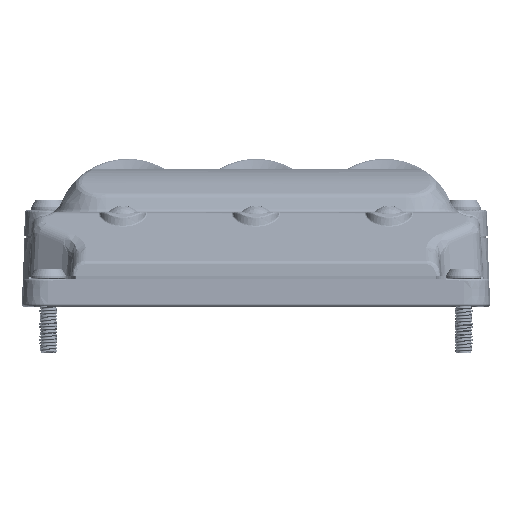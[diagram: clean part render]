
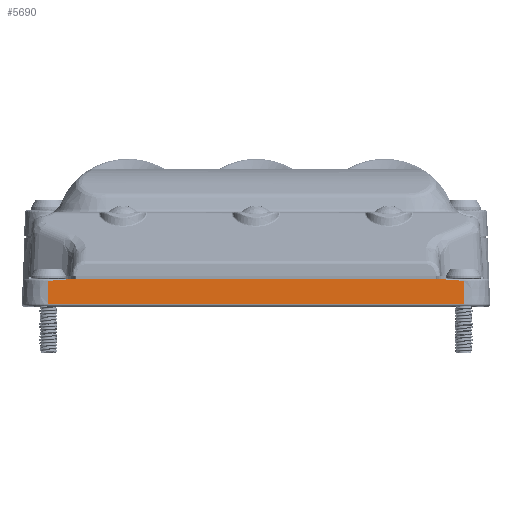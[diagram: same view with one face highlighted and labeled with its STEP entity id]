
A CAD part, top view. The second image highlights one B-rep face of the part: STEP entity #5690.
In plain terms, the highlighted planar face has unit normal (0, 0.035, 0.999).
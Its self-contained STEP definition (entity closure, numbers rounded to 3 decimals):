
#785 = LINE ( 'NONE', #54960, #95820 ) ;
#3224 = CARTESIAN_POINT ( 'NONE',  ( 39.25, 6., 40.69 ) ) ;
#3863 = ORIENTED_EDGE ( 'NONE', *, *, #78620, .T. ) ;
#5690 = ADVANCED_FACE ( 'NONE', ( #148428 ), #79233, .T. ) ;
#7178 = CARTESIAN_POINT ( 'NONE',  ( -39.25, 6., 40.69 ) ) ;
#8614 = VERTEX_POINT ( 'NONE', #55653 ) ;
#13501 = DIRECTION ( 'NONE',  ( 0., -0.999, 0.035 ) ) ;
#14368 = DIRECTION ( 'NONE',  ( 0., 0.035, 0.999 ) ) ;
#17544 = VECTOR ( 'NONE', #169220, 1000. ) ;
#18942 = CARTESIAN_POINT ( 'NONE',  ( -45.25, 0., 40.9 ) ) ;
#20970 = LINE ( 'NONE', #103566, #17544 ) ;
#24866 = VERTEX_POINT ( 'NONE', #120912 ) ;
#31645 = VERTEX_POINT ( 'NONE', #63549 ) ;
#31998 = VERTEX_POINT ( 'NONE', #7178 ) ;
#45937 = CARTESIAN_POINT ( 'NONE',  ( -41.25, 5.759, 40.699 ) ) ;
#48242 = DIRECTION ( 'NONE',  ( 0., -0.999, 0.035 ) ) ;
#53276 = EDGE_CURVE ( 'NONE', #8614, #160704, #157369, .T. ) ;
#54827 = ORIENTED_EDGE ( 'NONE', *, *, #174904, .T. ) ;
#54960 = CARTESIAN_POINT ( 'NONE',  ( 45.25, 0., 40.9 ) ) ;
#55653 = CARTESIAN_POINT ( 'NONE',  ( -45.25, 5.517, 40.707 ) ) ;
#56398 = CARTESIAN_POINT ( 'NONE',  ( -45.25, 0.517, 40.882 ) ) ;
#58839 = CARTESIAN_POINT ( 'NONE',  ( 45.25, 5.517, 40.707 ) ) ;
#62794 = CARTESIAN_POINT ( 'NONE',  ( -39.25, 6., 40.69 ) ) ;
#63549 = CARTESIAN_POINT ( 'NONE',  ( 45.25, 0.517, 40.882 ) ) ;
#72271 = EDGE_CURVE ( 'NONE', #83424, #31645, #785, .T. ) ;
#73322 = CARTESIAN_POINT ( 'NONE',  ( 45.25, 5.517, 40.707 ) ) ;
#75208 = CARTESIAN_POINT ( 'NONE',  ( -45.25, 5.517, 40.707 ) ) ;
#78620 = EDGE_CURVE ( 'NONE', #24866, #31998, #20970, .T. ) ;
#79233 = PLANE ( 'NONE',  #173810 ) ;
#83424 = VERTEX_POINT ( 'NONE', #58839 ) ;
#89706 = ORIENTED_EDGE ( 'NONE', *, *, #129600, .T. ) ;
#95820 = VECTOR ( 'NONE', #109123, 1000. ) ;
#99574 = EDGE_LOOP ( 'NONE', ( #111550, #119550, #3863, #54827, #112735, #89706 ) ) ;
#103566 = CARTESIAN_POINT ( 'NONE',  ( -46.25, 6., 40.69 ) ) ;
#105044 = DIRECTION ( 'NONE',  ( 1., 0., 0. ) ) ;
#109123 = DIRECTION ( 'NONE',  ( 0., -0.999, 0.035 ) ) ;
#111550 = ORIENTED_EDGE ( 'NONE', *, *, #72271, .F. ) ;
#112735 = ORIENTED_EDGE ( 'NONE', *, *, #53276, .T. ) ;
#119550 = ORIENTED_EDGE ( 'NONE', *, *, #126335, .T. ) ;
#120185 = B_SPLINE_CURVE_WITH_KNOTS ( 'NONE', 3,
 ( #62794, #45937, #143555, #75208 ),
 .UNSPECIFIED., .F., .F.,
 ( 4, 4 ),
 ( 0.001, 0.007 ),
 .UNSPECIFIED. ) ;
#120912 = CARTESIAN_POINT ( 'NONE',  ( 39.25, 6., 40.69 ) ) ;
#123389 = LINE ( 'NONE', #164185, #147605 ) ;
#126335 = EDGE_CURVE ( 'NONE', #83424, #24866, #154957, .T. ) ;
#127507 = CARTESIAN_POINT ( 'NONE',  ( 41.25, 5.759, 40.699 ) ) ;
#129600 = EDGE_CURVE ( 'NONE', #160704, #31645, #123389, .T. ) ;
#143555 = CARTESIAN_POINT ( 'NONE',  ( -43.25, 5.517, 40.707 ) ) ;
#147605 = VECTOR ( 'NONE', #105044, 1000. ) ;
#148428 = FACE_OUTER_BOUND ( 'NONE', #99574, .T. ) ;
#154957 = B_SPLINE_CURVE_WITH_KNOTS ( 'NONE', 3,
 ( #73322, #164797, #127507, #3224 ),
 .UNSPECIFIED., .F., .F.,
 ( 4, 4 ),
 ( 0.085, 0.091 ),
 .UNSPECIFIED. ) ;
#157369 = LINE ( 'NONE', #18942, #161358 ) ;
#160704 = VERTEX_POINT ( 'NONE', #56398 ) ;
#161358 = VECTOR ( 'NONE', #48242, 1000. ) ;
#161756 = CARTESIAN_POINT ( 'NONE',  ( 50., 0., 40.9 ) ) ;
#164185 = CARTESIAN_POINT ( 'NONE',  ( 50., 0.517, 40.882 ) ) ;
#164797 = CARTESIAN_POINT ( 'NONE',  ( 43.25, 5.517, 40.707 ) ) ;
#169220 = DIRECTION ( 'NONE',  ( -1., 0., 0. ) ) ;
#173810 = AXIS2_PLACEMENT_3D ( 'NONE', #161756, #14368, #13501 ) ;
#174904 = EDGE_CURVE ( 'NONE', #31998, #8614, #120185, .T. ) ;
